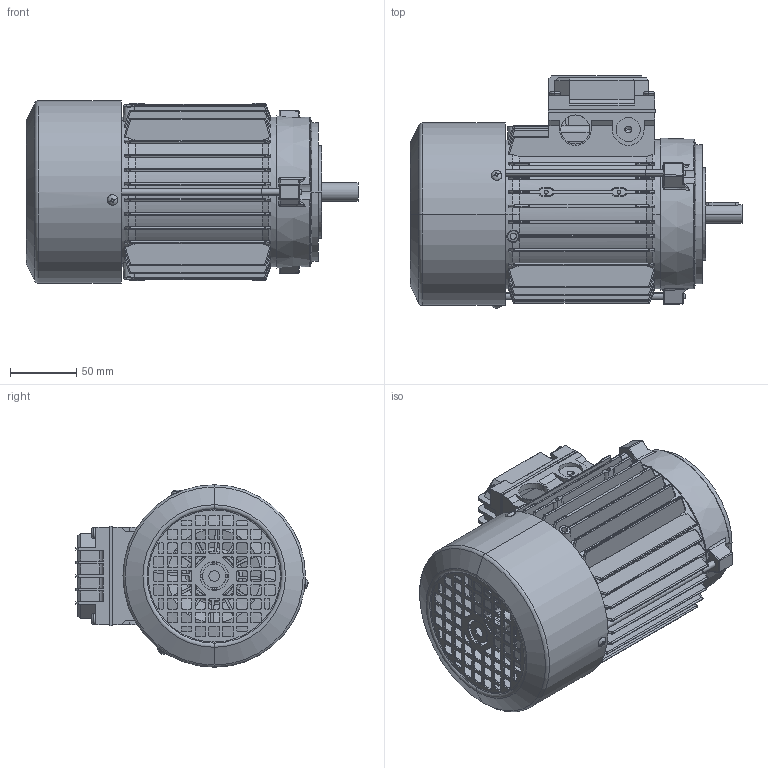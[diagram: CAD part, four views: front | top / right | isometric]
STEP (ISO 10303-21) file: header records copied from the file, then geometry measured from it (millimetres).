
FILE_DESCRIPTION (( 'STEP AP214' ), '1' );
FILE_NAME ('M24CC0010.STEP', '2019-01-14T16:47:24', ( '' ), ( '' ), 'SwSTEP 2.0', 'SolidWorks 2018', '' );
FILE_SCHEMA (( 'AUTOMOTIVE_DESIGN' ));
Length unit declared in the file: millimetre
Products named in the file (13): Chiavetta 71; Albero SM 71 - DBD40096; Scudo a Flangia B14 BA-BM 71 - DBAC0194; Carcassa 71 B5; M24CC0010; Coperchio per Scatola Singola 63-71-80 con viti; Guarnizione Scatola Singola 63-71-80; Vite per coperchio morsettiera; Coperchio per Scatola Singola 63-71-80 - DBAN0095; Vite testa rotonda M3; Cuffia SM 71; Tirante BM 71; Scudo Lato Comando B3 BA-BM 71- DBAD0094
Assembly tree (19 placements, depth 3):
  M24CC0010
    Carcassa 71 B5
    Scudo a Flangia B14 BA-BM 71 - DBAC0194
    Albero SM 71 - DBD40096
    Chiavetta 71
    Scudo Lato Comando B3 BA-BM 71- DBAD0094
    Tirante BM 71  x3
    Cuffia SM 71
    Vite testa rotonda M3  x3
    Coperchio per Scatola Singola 63-71-80 con viti
      Coperchio per Scatola Singola 63-71-80 - DBAN0095
      Vite per coperchio morsettiera  x4
      Guarnizione Scatola Singola 63-71-80
Bounding box: 251 x 175.42 x 138 mm (x, y, z)
Volume: 522363.8 mm3; surface area: 420093.7 mm2
Topology: 21 solids, 21 shells, 3026 faces, 8223 edges, 5175 vertices
Faces by surface type: plane 1016, cylinder 979, bspline 411, torus 370, cone 244, sphere 6
Entity records: 100746 total; most frequent: CARTESIAN_POINT 35522, ORIENTED_EDGE 14610, DIRECTION 12134, EDGE_CURVE 7305, VERTEX_POINT 4693, AXIS2_PLACEMENT_3D 4608, EDGE_LOOP 2968, VECTOR 2918
